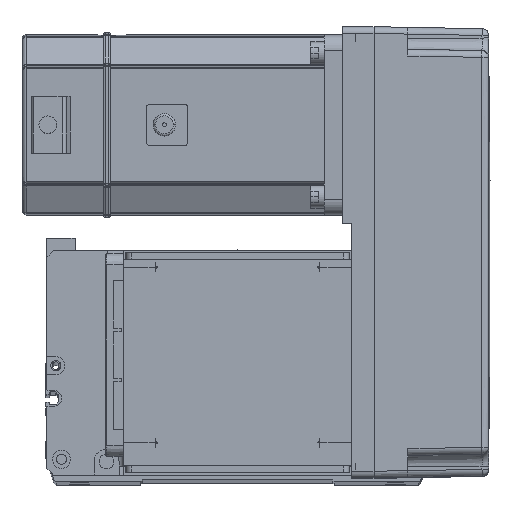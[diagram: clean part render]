
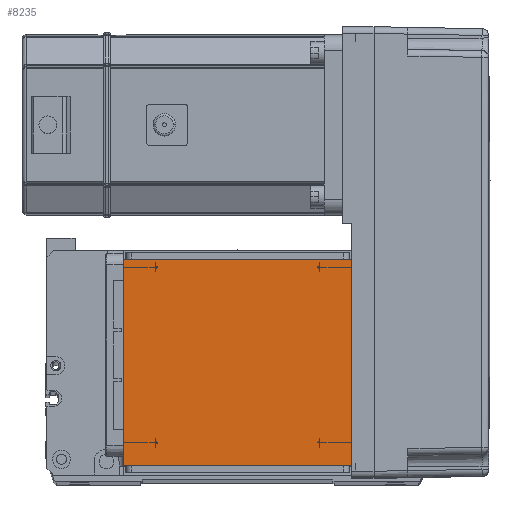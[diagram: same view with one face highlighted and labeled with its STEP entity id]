
A CAD part, top view. The second image highlights one B-rep face of the part: STEP entity #8235.
In plain terms, the highlighted planar face has unit normal (0, 0, 1).
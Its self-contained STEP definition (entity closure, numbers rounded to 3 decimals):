
#601 = VECTOR ( 'NONE', #50712, 1000. ) ;
#2293 = FACE_OUTER_BOUND ( 'NONE', #23621, .T. ) ;
#3585 = DIRECTION ( 'NONE',  ( 1., 0., 0. ) ) ;
#3957 = DIRECTION ( 'NONE',  ( 0., 0., 1. ) ) ;
#4692 = CARTESIAN_POINT ( 'NONE',  ( -50.5, 111.5, 115. ) ) ;
#6023 = LINE ( 'NONE', #34860, #51628 ) ;
#6066 = ORIENTED_EDGE ( 'NONE', *, *, #36035, .T. ) ;
#6825 = VERTEX_POINT ( 'NONE', #20183 ) ;
#6834 = EDGE_CURVE ( 'NONE', #48892, #52253, #53534, .T. ) ;
#8235 = ADVANCED_FACE ( 'NONE', ( #2293 ), #25569, .T. ) ;
#9740 = VERTEX_POINT ( 'NONE', #50626 ) ;
#13735 = LINE ( 'NONE', #23114, #601 ) ;
#14687 = CARTESIAN_POINT ( 'NONE',  ( 50.5, 111.5, 115. ) ) ;
#15765 = CARTESIAN_POINT ( 'NONE',  ( -50.5, 122., 115. ) ) ;
#20183 = CARTESIAN_POINT ( 'NONE',  ( -50.5, 20., 115. ) ) ;
#23114 = CARTESIAN_POINT ( 'NONE',  ( -70.004, 20., 115. ) ) ;
#23621 = EDGE_LOOP ( 'NONE', ( #32773, #53158, #26009, #6066 ) ) ;
#23834 = VECTOR ( 'NONE', #33701, 1000. ) ;
#24455 = EDGE_CURVE ( 'NONE', #9740, #6825, #13735, .T. ) ;
#25569 = PLANE ( 'NONE',  #50137 ) ;
#26009 = ORIENTED_EDGE ( 'NONE', *, *, #24455, .F. ) ;
#32773 = ORIENTED_EDGE ( 'NONE', *, *, #6834, .F. ) ;
#33701 = DIRECTION ( 'NONE',  ( 1., 0., 0. ) ) ;
#34860 = CARTESIAN_POINT ( 'NONE',  ( 50.5, 122., 115. ) ) ;
#36035 = EDGE_CURVE ( 'NONE', #9740, #52253, #6023, .T. ) ;
#38156 = CARTESIAN_POINT ( 'NONE',  ( -70.004, 111.5, 115. ) ) ;
#40961 = EDGE_CURVE ( 'NONE', #48892, #6825, #53241, .T. ) ;
#42787 = CARTESIAN_POINT ( 'NONE',  ( 0., 0., 115. ) ) ;
#43544 = VECTOR ( 'NONE', #46066, 1000. ) ;
#46066 = DIRECTION ( 'NONE',  ( 0., -1., 0. ) ) ;
#48363 = DIRECTION ( 'NONE',  ( 0., 1., 0. ) ) ;
#48892 = VERTEX_POINT ( 'NONE', #4692 ) ;
#50137 = AXIS2_PLACEMENT_3D ( 'NONE', #42787, #3957, #3585 ) ;
#50626 = CARTESIAN_POINT ( 'NONE',  ( 50.5, 20., 115. ) ) ;
#50712 = DIRECTION ( 'NONE',  ( -1., 0., 0. ) ) ;
#51628 = VECTOR ( 'NONE', #48363, 1000. ) ;
#52253 = VERTEX_POINT ( 'NONE', #14687 ) ;
#53158 = ORIENTED_EDGE ( 'NONE', *, *, #40961, .T. ) ;
#53241 = LINE ( 'NONE', #15765, #43544 ) ;
#53534 = LINE ( 'NONE', #38156, #23834 ) ;
